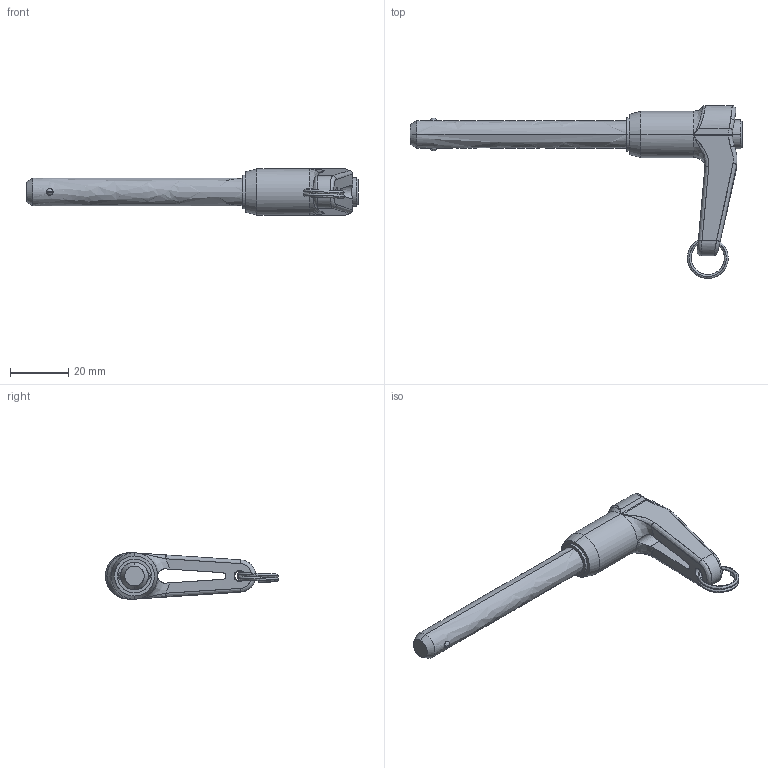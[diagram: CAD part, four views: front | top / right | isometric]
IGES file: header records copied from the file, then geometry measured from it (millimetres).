
Start section: SolidWorks IGES file using analytic representation for surfaces
Global section: file name: C:\Documents and Settings\IANO\My Documents\Wix and Auto CAD Work\CAD Models\Parametric Models\Wix Models\30000\33620_v2\33620_v2_20160606_IGES\33620.D026.igs; native system: SolidWorks 2009; preprocessor: SolidWorks 2009; author: IANO; date: 160615.130026; units: inch
Bounding box: 113.98 x 59.35 x 15.88 mm (x, y, z)
Surface area: 8795.1 mm2 (no closed solid volume)
Topology: 0 solids, 0 shells, 83 faces, 1217 edges, 1215 vertices
Faces by surface type: bspline 53, revolution 30
